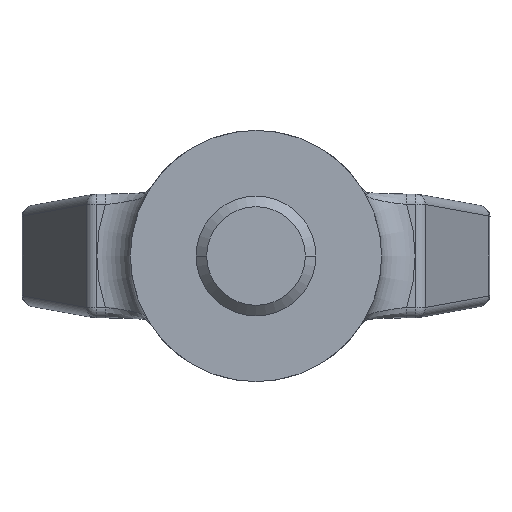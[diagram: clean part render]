
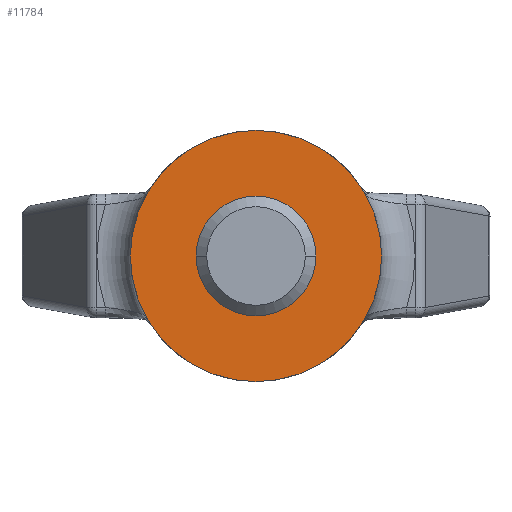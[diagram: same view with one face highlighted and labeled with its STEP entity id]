
A CAD part, front view. The second image highlights one B-rep face of the part: STEP entity #11784.
In plain terms, the highlighted planar face has unit normal (0, -1, 0).
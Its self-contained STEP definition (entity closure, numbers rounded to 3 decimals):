
#1214=CARTESIAN_POINT('',(0.,-56.,0.));
#1215=DIRECTION('',(0.,-1.,0.));
#1216=DIRECTION('',(-1.,0.,0.));
#1217=AXIS2_PLACEMENT_3D('',#1214,#1215,#1216);
#1219=CARTESIAN_POINT('',(0.,-56.,0.));
#1220=DIRECTION('',(0.,1.,0.));
#1221=DIRECTION('',(-1.,0.,0.));
#1222=AXIS2_PLACEMENT_3D('',#1219,#1220,#1221);
#7230=CARTESIAN_POINT('',(-30.,-56.,0.));
#7231=CARTESIAN_POINT('',(30.,-56.,0.));
#7232=VERTEX_POINT('',#7230);
#7233=VERTEX_POINT('',#7231);
#11775=CARTESIAN_POINT('',(0.,-56.,0.));
#11776=DIRECTION('',(0.,1.,0.));
#11777=DIRECTION('',(1.,0.,0.));
#11778=AXIS2_PLACEMENT_3D('',#11775,#11776,#11777);
#11779=PLANE('',#11778);
#11780=ORIENTED_EDGE('',*,*,#11766,.F.);
#11781=ORIENTED_EDGE('',*,*,#9465,.T.);
#11782=EDGE_LOOP('',(#11780,#11781));
#11783=FACE_OUTER_BOUND('',#11782,.F.);
#11784=ADVANCED_FACE('',(#11783),#11779,.F.);
#1218=CIRCLE('',#1217,30.);
#1223=CIRCLE('',#1222,30.);
#9465=EDGE_CURVE('',#7232,#7233,#1223,.T.);
#11766=EDGE_CURVE('',#7232,#7233,#1218,.T.);
